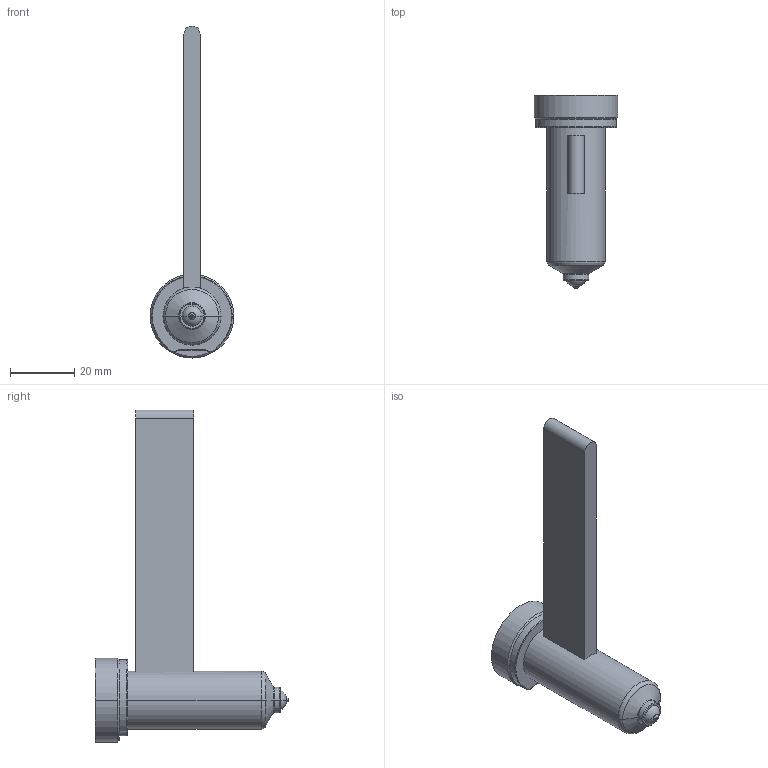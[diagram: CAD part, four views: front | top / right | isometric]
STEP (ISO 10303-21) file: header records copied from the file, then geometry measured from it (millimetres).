
FILE_DESCRIPTION((''),'2;1');
FILE_NAME('EO04_PG-BL_WR_050_COT','2024-02-19T10:58:53',('sundharh'),(''),'CREO PARAMETRIC BY PTC INC, 2023154','CREO PARAMETRIC BY PTC INC, 2023154','');
FILE_SCHEMA(('CONFIG_CONTROL_DESIGN'));
Length unit declared in the file: millimetre
Products named in the file (1): EO04_PG-BL_WR_050_COT
Bounding box: 26 x 60 x 103 mm (x, y, z)
Volume: 23741.6 mm3; surface area: 8018.7 mm2
Topology: 1 solids, 1 shells, 40 faces, 85 edges, 50 vertices
Faces by surface type: cylinder 13, plane 10, torus 9, cone 6, sphere 2
Entity records: 1195 total; most frequent: CARTESIAN_POINT 265, DIRECTION 209, ORIENTED_EDGE 170, AXIS2_PLACEMENT_3D 90, EDGE_CURVE 85, VERTEX_POINT 50, CIRCLE 50, EDGE_LOOP 43
